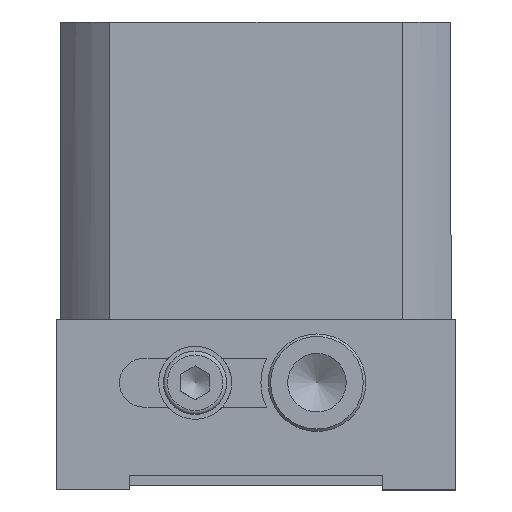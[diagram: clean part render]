
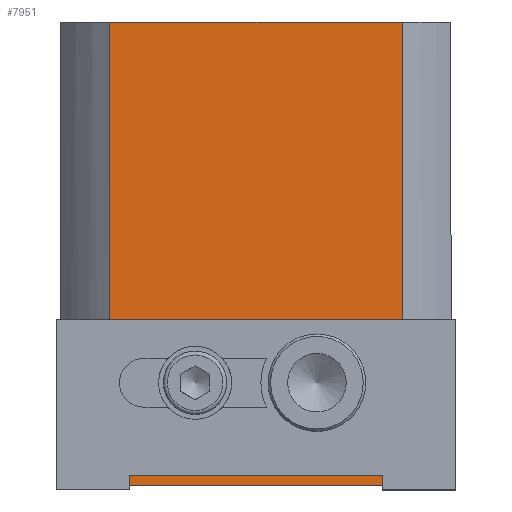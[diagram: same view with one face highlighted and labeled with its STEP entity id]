
A CAD part, left-side view. The second image highlights one B-rep face of the part: STEP entity #7951.
In plain terms, the highlighted planar face has unit normal (-1, 0, 0).
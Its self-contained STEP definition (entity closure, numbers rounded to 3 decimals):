
#7559=CARTESIAN_POINT('',(-40.,10.,-95.0));
#7560=VERTEX_POINT('',#7559);
#7568=CARTESIAN_POINT('',(-40.,70.,-95.));
#7569=VERTEX_POINT('',#7568);
#7570=CARTESIAN_POINT('',(-40.,70.,-95.));
#7571=DIRECTION('',(0.0,-1.0,0.0));
#7572=VECTOR('',#7571,60.);
#7573=LINE('',#7570,#7572);
#7574=EDGE_CURVE('',#7569,#7560,#7573,.T.);
#7899=CARTESIAN_POINT('',(-40.,70.,0.0));
#7900=DIRECTION('',(-1.0,0.0,0.0));
#7901=DIRECTION('',(0.0,0.0,1.0));
#7902=AXIS2_PLACEMENT_3D('',#7899,#7900,#7901);
#7903=PLANE('',#7902);
#7904=CARTESIAN_POINT('',(-40.,10.,0.0));
#7905=VERTEX_POINT('',#7904);
#7906=CARTESIAN_POINT('',(-40.,10.,0.0));
#7907=DIRECTION('',(0.0,0.0,-1.0));
#7908=VECTOR('',#7907,95.0);
#7909=LINE('',#7906,#7908);
#7910=EDGE_CURVE('',#7905,#7560,#7909,.T.);
#7911=ORIENTED_EDGE('',*,*,#7910,.F.);
#7912=CARTESIAN_POINT('',(-40.,70.,0.0));
#7913=VERTEX_POINT('',#7912);
#7914=CARTESIAN_POINT('',(-40.0,70.,0.0));
#7915=DIRECTION('',(0.0,-1.0,0.0));
#7916=VECTOR('',#7915,60.);
#7917=LINE('',#7914,#7916);
#7918=EDGE_CURVE('',#7913,#7905,#7917,.T.);
#7919=ORIENTED_EDGE('',*,*,#7918,.F.);
#7920=CARTESIAN_POINT('',(-40.,70.,0.0));
#7921=DIRECTION('',(0.0,0.0,-1.0));
#7922=VECTOR('',#7921,95.0);
#7923=LINE('',#7920,#7922);
#7924=EDGE_CURVE('',#7913,#7569,#7923,.T.);
#7925=ORIENTED_EDGE('',*,*,#7924,.T.);
#7926=ORIENTED_EDGE('',*,*,#7574,.T.);
#7927=EDGE_LOOP('',(#7911,#7919,#7925,#7926));
#7928=FACE_OUTER_BOUND('',#7927,.T.);
#7929=CARTESIAN_POINT('',(-40.,27.5,-64.));
#7930=VERTEX_POINT('',#7929);
#7931=CARTESIAN_POINT('',(-40.,27.5,-74.));
#7932=DIRECTION('',(-1.0,0.0,0.0));
#7933=DIRECTION('',(0.0,-1.0,0.0));
#7934=AXIS2_PLACEMENT_3D('',#7931,#7932,#7933);
#7935=CIRCLE('',#7934,10.0);
#7936=EDGE_CURVE('',#7930,#7930,#7935,.T.);
#7937=ORIENTED_EDGE('',*,*,#7936,.F.);
#7938=EDGE_LOOP('',(#7937));
#7939=FACE_BOUND('',#7938,.T.);
#7940=CARTESIAN_POINT('',(-40.,52.5,-64.));
#7941=VERTEX_POINT('',#7940);
#7942=CARTESIAN_POINT('',(-40.,52.5,-74.));
#7943=DIRECTION('',(-1.0,0.0,0.0));
#7944=DIRECTION('',(0.0,1.0,0.0));
#7945=AXIS2_PLACEMENT_3D('',#7942,#7943,#7944);
#7946=CIRCLE('',#7945,10.0);
#7947=EDGE_CURVE('',#7941,#7941,#7946,.T.);
#7948=ORIENTED_EDGE('',*,*,#7947,.F.);
#7949=EDGE_LOOP('',(#7948));
#7950=FACE_BOUND('',#7949,.T.);
#7951=ADVANCED_FACE('',(#7928,#7939,#7950),#7903,.T.);
